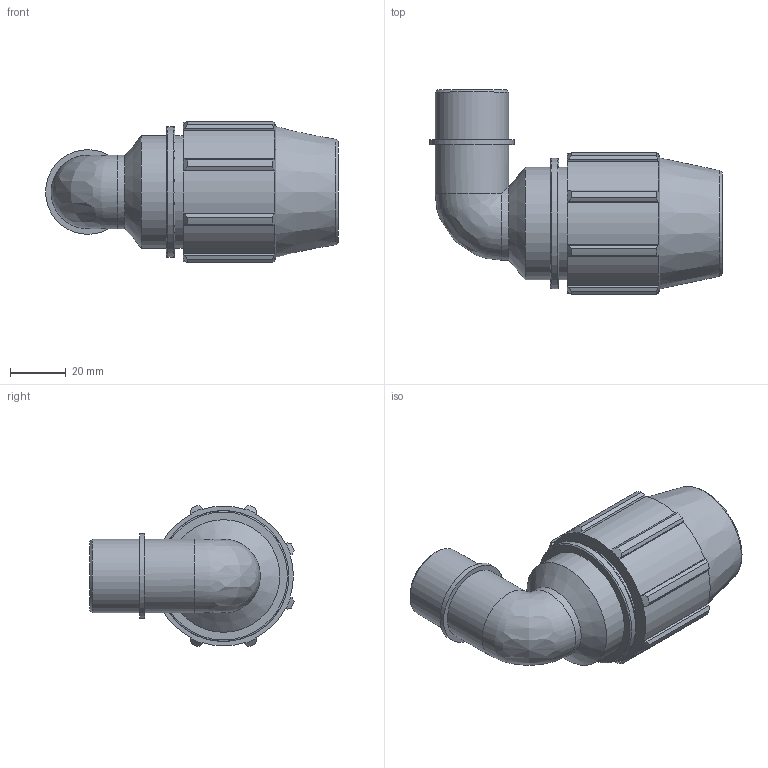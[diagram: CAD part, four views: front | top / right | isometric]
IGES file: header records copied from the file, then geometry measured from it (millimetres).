
Global section: file name: 078500025007_188500025007_0785060250070A.ipt; native system: Autodesk Inventor 2015; preprocessor: unknown; author: KIM; date: 20170606.133117; units: millimetre
Bounding box: 105.2 x 73.41 x 50.81 mm (x, y, z)
Volume: 107763.5 mm3; surface area: 28942.8 mm2
Topology: 1 solids, 1 shells, 86 faces, 236 edges, 157 vertices
Faces by surface type: plane 41, cylinder 23, cone 12, revolution 9, bspline 1
Full cylindrical faces by diameter (mm): 26.441 x3, 30.407 x1, 40.5 x2, 46.98 x1
